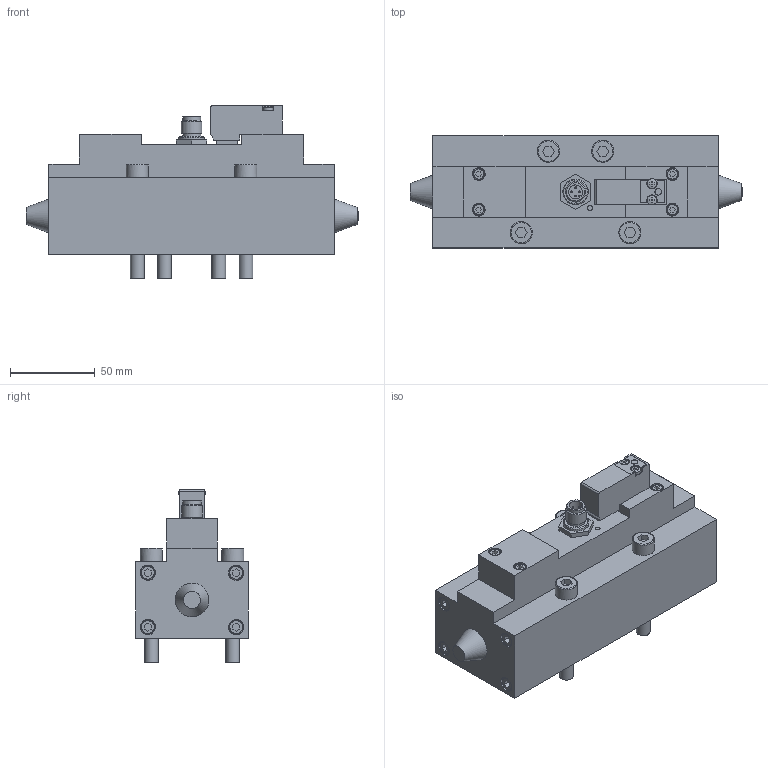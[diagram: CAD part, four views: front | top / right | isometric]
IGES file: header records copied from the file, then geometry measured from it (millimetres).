
Global section: file name: No Iges File Name specified; native system: Autodesk Inventor 2013; preprocessor: AutoDesk Inventor Iges Exporter R2013; author: valotma1; date: 20140318.135323; units: millimetre
Bounding box: 195.5 x 66 x 102.2 mm (x, y, z)
Volume: 622211.2 mm3; surface area: 63674.9 mm2
Topology: 3 solids, 3 shells, 331 faces, 756 edges, 496 vertices
Faces by surface type: bspline 331
